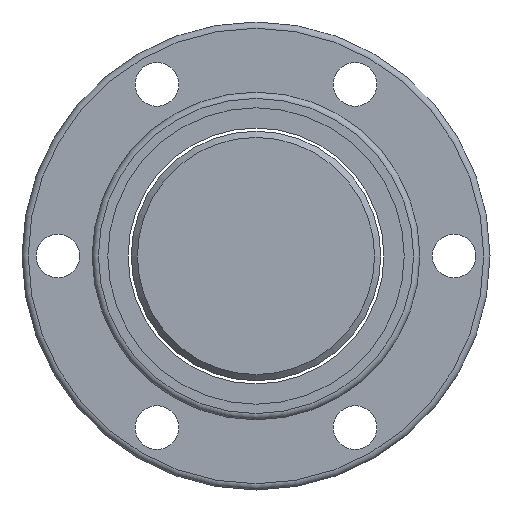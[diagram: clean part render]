
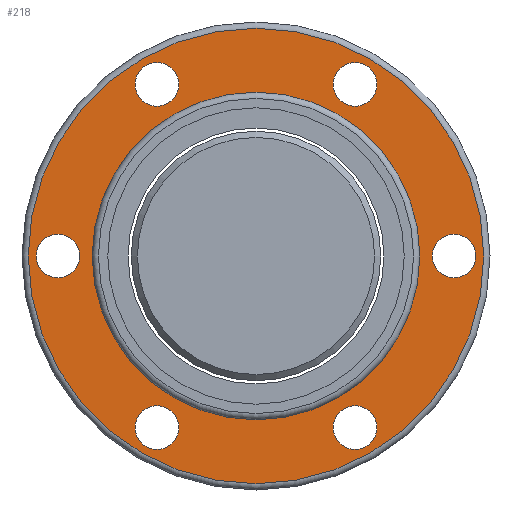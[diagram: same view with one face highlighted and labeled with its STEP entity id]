
A CAD part, left-side view. The second image highlights one B-rep face of the part: STEP entity #218.
In plain terms, the highlighted planar face has unit normal (-1, 0, 0).
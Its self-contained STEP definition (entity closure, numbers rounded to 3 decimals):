
#146=FACE_BOUND('',#305,.T.);
#147=FACE_BOUND('',#306,.T.);
#148=FACE_BOUND('',#307,.T.);
#149=FACE_BOUND('',#308,.T.);
#150=FACE_BOUND('',#309,.T.);
#151=FACE_BOUND('',#310,.T.);
#152=FACE_BOUND('',#312,.T.);
#218=ADVANCED_FACE('',(#146,#147,#148,#149,#150,#151,#276,#152),#257,.F.);
#257=PLANE('',#695);
#276=FACE_OUTER_BOUND('',#311,.T.);
#305=EDGE_LOOP('',(#397));
#306=EDGE_LOOP('',(#398));
#307=EDGE_LOOP('',(#399));
#308=EDGE_LOOP('',(#400));
#309=EDGE_LOOP('',(#401));
#310=EDGE_LOOP('',(#402));
#311=EDGE_LOOP('',(#403));
#312=EDGE_LOOP('',(#404));
#397=ORIENTED_EDGE('',*,*,#563,.T.);
#398=ORIENTED_EDGE('',*,*,#564,.T.);
#399=ORIENTED_EDGE('',*,*,#565,.T.);
#400=ORIENTED_EDGE('',*,*,#566,.T.);
#401=ORIENTED_EDGE('',*,*,#567,.T.);
#402=ORIENTED_EDGE('',*,*,#568,.T.);
#403=ORIENTED_EDGE('',*,*,#569,.F.);
#404=ORIENTED_EDGE('',*,*,#570,.T.);
#509=VERTEX_POINT('',#993);
#510=VERTEX_POINT('',#995);
#511=VERTEX_POINT('',#997);
#512=VERTEX_POINT('',#999);
#513=VERTEX_POINT('',#1001);
#514=VERTEX_POINT('',#1003);
#515=VERTEX_POINT('',#1005);
#516=VERTEX_POINT('',#1007);
#563=EDGE_CURVE('',#509,#509,#623,.T.);
#564=EDGE_CURVE('',#510,#510,#624,.T.);
#565=EDGE_CURVE('',#511,#511,#625,.T.);
#566=EDGE_CURVE('',#512,#512,#626,.T.);
#567=EDGE_CURVE('',#513,#513,#627,.T.);
#568=EDGE_CURVE('',#514,#514,#628,.T.);
#569=EDGE_CURVE('',#515,#515,#629,.T.);
#570=EDGE_CURVE('',#516,#516,#630,.T.);
#623=CIRCLE('',#687,7.);
#624=CIRCLE('',#688,7.);
#625=CIRCLE('',#689,7.);
#626=CIRCLE('',#690,7.);
#627=CIRCLE('',#691,7.);
#628=CIRCLE('',#692,7.);
#629=CIRCLE('',#693,73.);
#630=CIRCLE('',#694,52.5);
#687=AXIS2_PLACEMENT_3D('',#992,#804,#805);
#688=AXIS2_PLACEMENT_3D('',#994,#806,#807);
#689=AXIS2_PLACEMENT_3D('',#996,#808,#809);
#690=AXIS2_PLACEMENT_3D('',#998,#810,#811);
#691=AXIS2_PLACEMENT_3D('',#1000,#812,#813);
#692=AXIS2_PLACEMENT_3D('',#1002,#814,#815);
#693=AXIS2_PLACEMENT_3D('',#1004,#816,#817);
#694=AXIS2_PLACEMENT_3D('',#1006,#818,#819);
#695=AXIS2_PLACEMENT_3D('',#1008,#820,#821);
#804=DIRECTION('',(1.,0.,0.));
#805=DIRECTION('',(0.,0.,-1.));
#806=DIRECTION('',(1.,0.,0.));
#807=DIRECTION('',(0.,0.,-1.));
#808=DIRECTION('',(1.,0.,0.));
#809=DIRECTION('',(0.,0.,-1.));
#810=DIRECTION('',(1.,0.,0.));
#811=DIRECTION('',(0.,0.,-1.));
#812=DIRECTION('',(1.,0.,0.));
#813=DIRECTION('',(0.,0.,-1.));
#814=DIRECTION('',(1.,0.,0.));
#815=DIRECTION('',(0.,0.,-1.));
#816=DIRECTION('',(1.,0.,0.));
#817=DIRECTION('',(0.,0.,-1.));
#818=DIRECTION('',(1.,0.,0.));
#819=DIRECTION('',(0.,0.,-1.));
#820=DIRECTION('',(1.,0.,0.));
#821=DIRECTION('',(0.,0.,-1.));
#992=CARTESIAN_POINT('',(-62.,63.5,0.));
#993=CARTESIAN_POINT('',(-62.,63.5,-7.));
#994=CARTESIAN_POINT('',(-62.,-63.5,0.));
#995=CARTESIAN_POINT('',(-62.,-63.5,-7.));
#996=CARTESIAN_POINT('',(-62.,31.75,-54.99));
#997=CARTESIAN_POINT('',(-62.,31.75,-61.99));
#998=CARTESIAN_POINT('',(-62.,-31.75,-54.99));
#999=CARTESIAN_POINT('',(-62.,-31.75,-61.99));
#1000=CARTESIAN_POINT('',(-62.,-31.75,54.99));
#1001=CARTESIAN_POINT('',(-62.,-31.75,47.99));
#1002=CARTESIAN_POINT('',(-62.,31.75,54.99));
#1003=CARTESIAN_POINT('',(-62.,31.75,47.99));
#1004=CARTESIAN_POINT('',(-62.,0.,0.));
#1005=CARTESIAN_POINT('',(-62.,0.,-73.));
#1006=CARTESIAN_POINT('',(-62.,0.,0.));
#1007=CARTESIAN_POINT('',(-62.,0.,-52.5));
#1008=CARTESIAN_POINT('',(-62.,62.75,0.));
